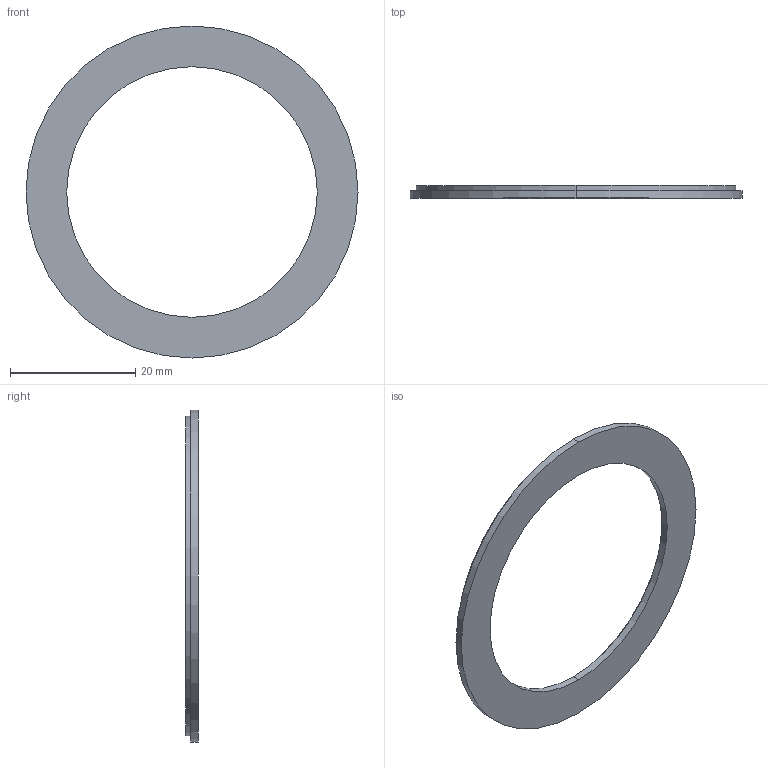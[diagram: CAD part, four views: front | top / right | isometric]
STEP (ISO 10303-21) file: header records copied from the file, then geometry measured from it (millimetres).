
FILE_DESCRIPTION (( 'STEP AP214' ), '1' );
FILE_NAME ('MRA053BG.STEP', '2019-06-27T08:06:32', ( '' ), ( '' ), 'SwSTEP 2.0', 'SolidWorks 2016', '' );
FILE_SCHEMA (( 'AUTOMOTIVE_DESIGN' ));
Length unit declared in the file: millimetre
Products named in the file (3): Elastoferrite OD52_ID42x0,8; Prirobnica 53 40 1.2; MRA053BG
Assembly tree (2 placements, depth 2):
  MRA053BG
    Prirobnica 53 40 1.2
    Elastoferrite OD52_ID42x0,8
Bounding box: 53 x 2 x 53 mm (x, y, z)
Volume: 1665.4 mm3; surface area: 3798.2 mm2
Topology: 2 solids, 2 shells, 12 faces, 24 edges, 16 vertices
Faces by surface type: cylinder 8, plane 4
Entity records: 442 total; most frequent: DIRECTION 74, CARTESIAN_POINT 57, ORIENTED_EDGE 48, AXIS2_PLACEMENT_3D 33, EDGE_CURVE 24, VERTEX_POINT 16, EDGE_LOOP 16, CIRCLE 16
